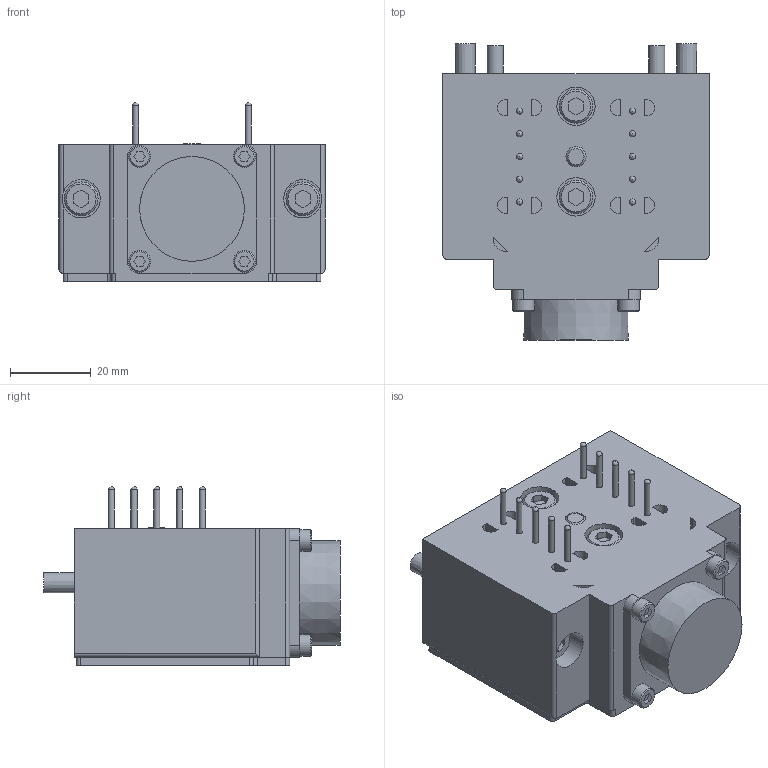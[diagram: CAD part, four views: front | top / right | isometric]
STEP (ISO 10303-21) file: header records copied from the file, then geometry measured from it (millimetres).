
FILE_DESCRIPTION(('STEP AP214'),'1');
FILE_NAME('KHB-45_300HS-D1010C_ver1.stp','2026-04-27T07:57:26',(' '),(' '),'Spatial InterOp 3D',' ',' ');
FILE_SCHEMA(('AUTOMOTIVE_DESIGN { 1 0 10303 214 1 1 1 1 }'));
Length unit declared in the file: millimetre
Products named in the file (3): KHB-45~300HS-D1010C_ver1; パーツ1
Assembly tree (2 placements, depth 2):
  KHB-45~300HS-D1010C_ver1
    パーツ1
    パーツ1
Bounding box: 66 x 73.5 x 44.4 mm (x, y, z)
Volume: 119939.2 mm3; surface area: 22979.8 mm2
Topology: 2 solids, 18 shells, 439 faces, 1033 edges, 682 vertices
Faces by surface type: plane 304, cylinder 95, cone 30, sphere 10
Full cylindrical faces by diameter (mm): 1.5 x10, 2.5 x8, 3.4 x4, 3.5 x4, 4 x3, 5 x4, 5.41 x4, 5.5 x4, 8.385 x4, 9.5 x4
Entity records: 15166 total; most frequent: DIRECTION 2004, CARTESIAN_POINT 1980, ORIENTED_EDGE 1778, EDGE_CURVE 889, AXIS2_PLACEMENT_3D 675, LINE 654, VECTOR 654, VERTEX_POINT 627
